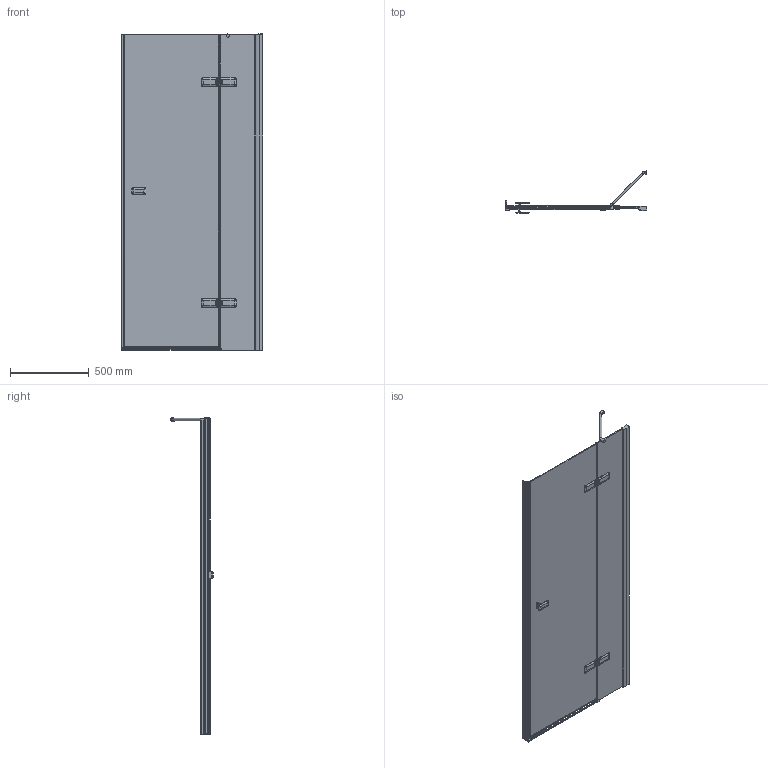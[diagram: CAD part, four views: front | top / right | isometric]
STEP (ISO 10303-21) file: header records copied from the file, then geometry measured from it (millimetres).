
FILE_DESCRIPTION(/* description */ (''),/* implementation_level */ '2;1');
FILE_NAME(/* name */ 'E:\Работа\Сергей\Душевые кабинки\! Работа\4\TREND DOOR GK-862APONE\TREND DOOR GK-862APONE правая модель\TREND DOOR GK-862APONE ПРАВАЯ-3D.stp',/* time_stamp */ '2017-09-28T21:08:27+03:00',/* author */ ('PC'),/* organization */ (''),/* preprocessor_version */ 'ST-DEVELOPER v15.2',/* originating_system */ 'Autodesk Inventor 2014',/* authorisation */ '');
FILE_SCHEMA (('AUTOMOTIVE_DESIGN { 1 0 10303 214 3 1 1 }'));
Length unit declared in the file: millimetre
Products named in the file (1): TREND DOOR GK-862APONE ПРАВАЯ-
3D
Bounding box: 900.14 x 268.64 x 2009.49 mm (x, y, z)
Volume: 14851856.3 mm3; surface area: 4170845.9 mm2
Topology: 5 solids, 12 shells, 1360 faces, 3605 edges, 2227 vertices
Faces by surface type: plane 824, cylinder 341, bspline 138, torus 30, cone 18, sphere 9
Full cylindrical faces by diameter (mm): 6 x2, 9 x8, 13 x2, 15 x1, 20 x2, 26 x1
Entity records: 59001 total; most frequent: CARTESIAN_POINT 24714, ORIENTED_EDGE 7052, DIRECTION 6617, EDGE_CURVE 3522, LINE 2221, VECTOR 2221, VERTEX_POINT 2213, AXIS2_PLACEMENT_3D 2198
